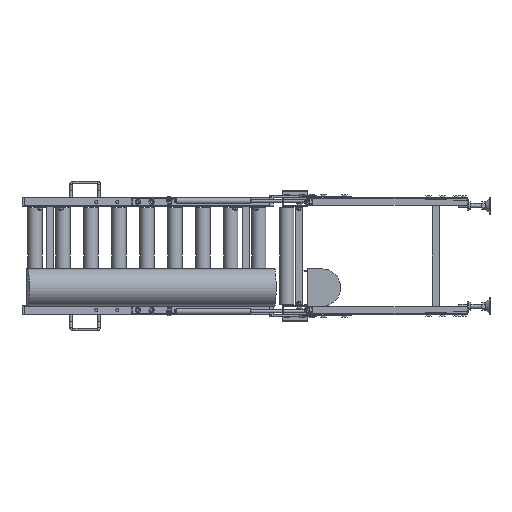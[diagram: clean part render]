
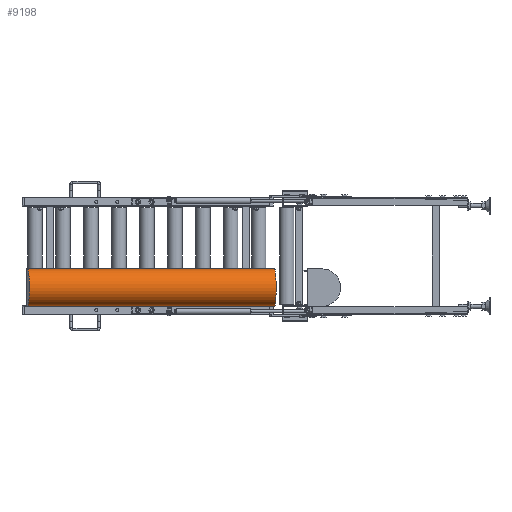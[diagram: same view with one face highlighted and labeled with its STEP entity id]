
A CAD part, left-side view. The second image highlights one B-rep face of the part: STEP entity #9198.
In plain terms, the highlighted cylindrical face has radius 66.89 mm (diameter 133.78 mm), a partial arc.
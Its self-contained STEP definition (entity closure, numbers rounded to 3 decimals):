
#735 = CARTESIAN_POINT ( 'NONE',  ( -63.444, -158.438, -45.72 ) ) ;
#1717 = VERTEX_POINT ( 'NONE', #31942 ) ;
#6602 = EDGE_LOOP ( 'NONE', ( #22542, #17729, #20847, #26610 ) ) ;
#8540 = CIRCLE ( 'NONE', #69456, 66.89 ) ;
#8823 = DIRECTION ( 'NONE',  ( -0.087, 0.996, 0. ) ) ;
#9198 = ADVANCED_FACE ( 'NONE', ( #9371 ), #49418, .T. ) ;
#9371 = FACE_OUTER_BOUND ( 'NONE', #6602, .T. ) ;
#10005 = VERTEX_POINT ( 'NONE', #43276 ) ;
#11155 = VERTEX_POINT ( 'NONE', #20400 ) ;
#13036 = CARTESIAN_POINT ( 'NONE',  ( -78.917, 18.539, -179.5 ) ) ;
#17372 = AXIS2_PLACEMENT_3D ( 'NONE', #43857, #8823, #48633 ) ;
#17729 = ORIENTED_EDGE ( 'NONE', *, *, #25656, .T. ) ;
#20016 = EDGE_CURVE ( 'NONE', #51929, #11155, #53589, .T. ) ;
#20400 = CARTESIAN_POINT ( 'NONE',  ( -155.735, 897.187, -179.5 ) ) ;
#20847 = ORIENTED_EDGE ( 'NONE', *, *, #67760, .T. ) ;
#22542 = ORIENTED_EDGE ( 'NONE', *, *, #20016, .F. ) ;
#25656 = EDGE_CURVE ( 'NONE', #51929, #10005, #8540, .T. ) ;
#26610 = ORIENTED_EDGE ( 'NONE', *, *, #49318, .F. ) ;
#31942 = CARTESIAN_POINT ( 'NONE',  ( -155.735, 897.187, -45.72 ) ) ;
#36746 = DIRECTION ( 'NONE',  ( -0.087, 0.996, 0. ) ) ;
#40314 = CIRCLE ( 'NONE', #17372, 66.89 ) ;
#42487 = DIRECTION ( 'NONE',  ( -0.087, 0.996, 0. ) ) ;
#42695 = CARTESIAN_POINT ( 'NONE',  ( -78.917, 18.539, -112.61 ) ) ;
#43276 = CARTESIAN_POINT ( 'NONE',  ( -78.917, 18.539, -45.72 ) ) ;
#43857 = CARTESIAN_POINT ( 'NONE',  ( -155.735, 897.187, -112.61 ) ) ;
#46796 = DIRECTION ( 'NONE',  ( -0.087, 0.996, 0. ) ) ;
#47450 = DIRECTION ( 'NONE',  ( -0.087, 0.996, 0. ) ) ;
#47452 = DIRECTION ( 'NONE',  ( 0., 0., 1. ) ) ;
#48467 = CARTESIAN_POINT ( 'NONE',  ( -63.444, -158.438, -179.5 ) ) ;
#48633 = DIRECTION ( 'NONE',  ( 0., 0., -1. ) ) ;
#49318 = EDGE_CURVE ( 'NONE', #11155, #1717, #40314, .T. ) ;
#49418 = CYLINDRICAL_SURFACE ( 'NONE', #53143, 66.89 ) ;
#50609 = LINE ( 'NONE', #735, #64827 ) ;
#51929 = VERTEX_POINT ( 'NONE', #13036 ) ;
#53143 = AXIS2_PLACEMENT_3D ( 'NONE', #71052, #36746, #47452 ) ;
#53589 = LINE ( 'NONE', #48467, #73181 ) ;
#58865 = DIRECTION ( 'NONE',  ( 0., 0., -1. ) ) ;
#64827 = VECTOR ( 'NONE', #46796, 1000. ) ;
#67760 = EDGE_CURVE ( 'NONE', #10005, #1717, #50609, .T. ) ;
#69456 = AXIS2_PLACEMENT_3D ( 'NONE', #42695, #47450, #58865 ) ;
#71052 = CARTESIAN_POINT ( 'NONE',  ( -63.444, -158.438, -112.61 ) ) ;
#73181 = VECTOR ( 'NONE', #42487, 1000. ) ;
